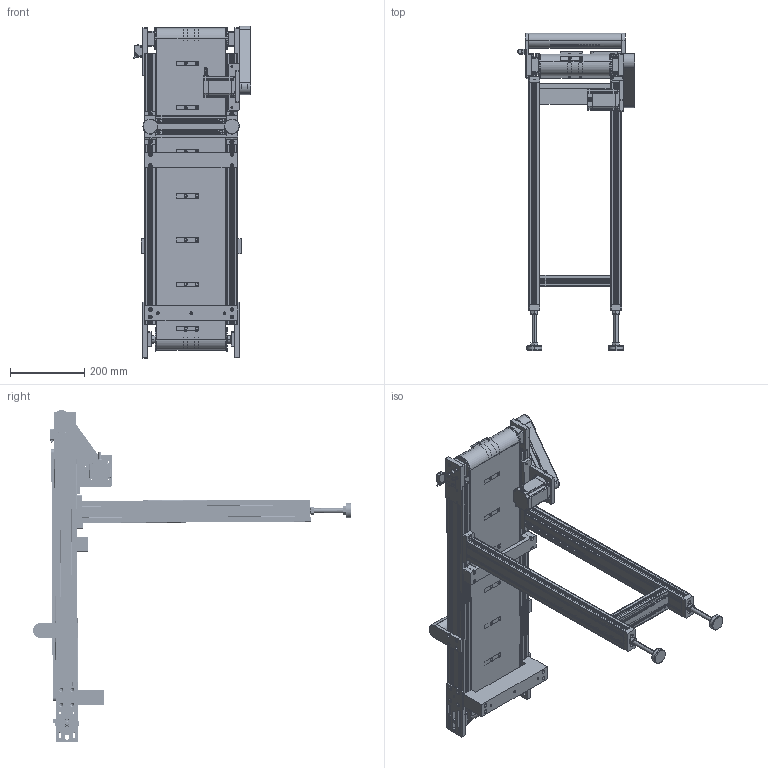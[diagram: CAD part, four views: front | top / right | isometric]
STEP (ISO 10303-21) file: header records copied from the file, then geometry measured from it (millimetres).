
FILE_DESCRIPTION(/* description */ (''),/* implementation_level */ '2;1');
FILE_NAME(/* name */ 'beltconveyor_a143_w190_l890.stp',/* time_stamp */ '2025-01-19T11:17:50+08:00',/* author */ (''),/* organization */ (''),/* preprocessor_version */ 'ST-DEVELOPER v16.7',/* originating_system */ 'SIEMENS PLM Software NX 12.0',/* authorisation */ '');
FILE_SCHEMA (('AUTOMOTIVE_DESIGN { 1 0 10303 214 3 1 1 1 }'));
Products named in the file (37): DCD20-11-007_JTM-0911-08-07-02; DCD20-11-006_JTM-0911-08-07-12; 深沟球轴承6001-2Z[GB／T 276-
94]; DCD20-11-008; DCD20-11-004_JTM-0911-08-07-02; DCD20--11-001; B6001ZZ(-05); DCD20-11-005_JTM-0911-08-07-12; ATP19XL050_B_P8_a; AJPCT-D40-M12-L120; SLMNA12; DCD20-11-019_默认_按加工_; DCD20-11-012_JTM-0911-08-07-11; DCD20-11-020; 57系列两相混合式步进电机[5
7HS26]_57HS26; DCD20-11-003; E3Z-T61[E3Z-T61]_E3Z-T61; DCD20-11-011输送带; DCD20-11-016; DCD20-11-022; ATP19XL050-A-NK10_ATP19XL050-A-C10; DCD20-11-001_JTM-0911-08-07-14; DCD20-11-010; DCD20-11-017_JTM-0911-08-07-01_按加工_; DCD20-11-013; DCD20-11-015; DCD20-11-002; DCD20-11-014_默认_按加工_; DCD20-11-009_JTM-0911-08-07-14; DCD20-11-021; TBN164XL050_info_1_19_19_TBN164XL050_info-1-19-19; DCD20-11-018; DCD20-11被动调节传动组合_JTM-091
1-08-07-10; DCD20-11主动传动组合; ATP19XL050_B_P8_ATP19XL050-B-P8; 水平调节地脚-金属脚杯配橡胶底座型 
AJPCT AJPCS_AJPCS-D40-M12-L120; beltconveyor_a143_w190_l890
Assembly tree (64 placements, depth 3):
  beltconveyor_a143_w190_l890
    DCD20-11-018  x15
    TBN164XL050_info_1_19_19_TBN164XL050_info-1-19-19
    DCD20-11-021  x3
    DCD20-11-009_JTM-0911-08-07-14  x2
    水平调节地脚-金属脚杯配橡胶底座型 
AJPCT AJPCS_AJPCS-D40-M12-L120  x2
      SLMNA12
      AJPCT-D40-M12-L120
    DCD20-11-014_默认_按加工_  x2
    DCD20-11-002
    ATP19XL050_B_P8_ATP19XL050-B-P8
      ATP19XL050_B_P8_a
    DCD20-11-015  x2
    DCD20-11-013
    DCD20-11-017_JTM-0911-08-07-01_按加工_  x2
    DCD20-11-010
    DCD20-11-001_JTM-0911-08-07-14
    ATP19XL050-A-NK10_ATP19XL050-A-C10
    DCD20-11-022
    DCD20-11-016  x2
    DCD20-11主动传动组合
      DCD20-11-005_JTM-0911-08-07-12
      B6001ZZ(-05)  x2
      DCD20--11-001  x2
      DCD20-11-004_JTM-0911-08-07-02  x2
    DCD20-11-011输送带
    E3Z-T61[E3Z-T61]_E3Z-T61
    DCD20-11-003
    DCD20-11被动调节传动组合_JTM-091
1-08-07-10
      DCD20-11-008  x2
      深沟球轴承6001-2Z[GB／T 276-
94]  x2
      DCD20-11-006_JTM-0911-08-07-12
      DCD20-11-007_JTM-0911-08-07-02  x2
    57系列两相混合式步进电机[5
7HS26]_57HS26
    DCD20-11-020
    DCD20-11-012_JTM-0911-08-07-11
    DCD20-11-019_默认_按加工_
Bounding box: 317.62 x 857.25 x 895.45 mm (x, y, z)
Volume: 6119145.1 mm3; surface area: 3362530.7 mm2
Topology: 133 solids, 133 shells, 5176 faces, 14054 edges, 9176 vertices
Faces by surface type: plane 2248, cylinder 1480, extrusion 738, sphere 307, cone 199, torus 144, bspline 60
Entity records: 123074 total; most frequent: CARTESIAN_POINT 34821, ORIENTED_EDGE 18190, DIRECTION 16344, EDGE_CURVE 9095, VERTEX_POINT 5935, AXIS2_PLACEMENT_3D 5734, VECTOR 4876, LINE 4507
